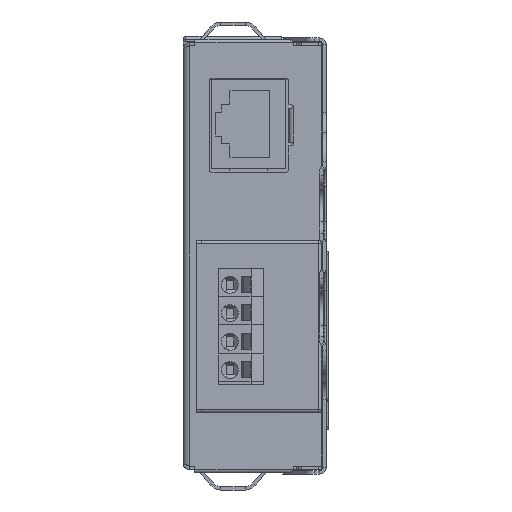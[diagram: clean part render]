
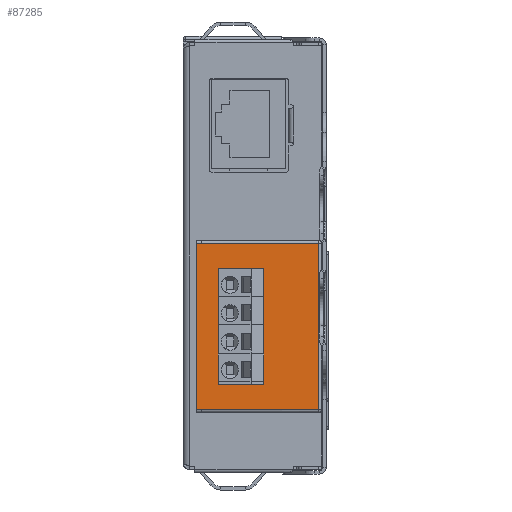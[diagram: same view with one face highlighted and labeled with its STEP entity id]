
A CAD part, left-side view. The second image highlights one B-rep face of the part: STEP entity #87285.
In plain terms, the highlighted planar face has unit normal (-1, 0, 0).
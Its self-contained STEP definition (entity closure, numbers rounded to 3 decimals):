
#142 = CARTESIAN_POINT ( 'NONE',  ( -55.7, 11., -2.25 ) ) ;
#586 = CARTESIAN_POINT ( 'NONE',  ( -55.7, 19., -22.55 ) ) ;
#687 = LINE ( 'NONE', #78383, #85054 ) ;
#1065 = VERTEX_POINT ( 'NONE', #48388 ) ;
#2085 = AXIS2_PLACEMENT_3D ( 'NONE', #64728, #48180, #96007 ) ;
#4170 = EDGE_CURVE ( 'NONE', #1065, #77850, #14020, .T. ) ;
#4720 = DIRECTION ( 'NONE',  ( 0., 0., 1. ) ) ;
#5814 = LINE ( 'NONE', #6319, #98690 ) ;
#5851 = DIRECTION ( 'NONE',  ( 0., 1., 0. ) ) ;
#6319 = CARTESIAN_POINT ( 'NONE',  ( -55.7, 22., 2.25 ) ) ;
#6822 = DIRECTION ( 'NONE',  ( 0., -1., 0. ) ) ;
#10456 = CARTESIAN_POINT ( 'NONE',  ( -55.7, 1.3, 2.25 ) ) ;
#11228 = ORIENTED_EDGE ( 'NONE', *, *, #72608, .T. ) ;
#12297 = EDGE_CURVE ( 'NONE', #1065, #79690, #90261, .T. ) ;
#12770 = ORIENTED_EDGE ( 'NONE', *, *, #12297, .F. ) ;
#13957 = VERTEX_POINT ( 'NONE', #142 ) ;
#14020 = LINE ( 'NONE', #37385, #80318 ) ;
#14146 = ORIENTED_EDGE ( 'NONE', *, *, #4170, .T. ) ;
#17823 = LINE ( 'NONE', #88065, #84505 ) ;
#19303 = VERTEX_POINT ( 'NONE', #75410 ) ;
#19555 = EDGE_CURVE ( 'NONE', #24454, #13957, #41889, .T. ) ;
#21626 = CARTESIAN_POINT ( 'NONE',  ( -55.7, 11., -22.55 ) ) ;
#22172 = ORIENTED_EDGE ( 'NONE', *, *, #36044, .F. ) ;
#22273 = CARTESIAN_POINT ( 'NONE',  ( -55.7, 19., -2.25 ) ) ;
#24454 = VERTEX_POINT ( 'NONE', #22273 ) ;
#25731 = EDGE_CURVE ( 'NONE', #79690, #41571, #74654, .T. ) ;
#27730 = LINE ( 'NONE', #10456, #33928 ) ;
#32669 = EDGE_CURVE ( 'NONE', #37614, #19303, #27730, .T. ) ;
#33239 = CARTESIAN_POINT ( 'NONE',  ( -55.7, 19., -2.25 ) ) ;
#33713 = EDGE_CURVE ( 'NONE', #13957, #82328, #17823, .T. ) ;
#33928 = VECTOR ( 'NONE', #64693, 1000. ) ;
#36044 = EDGE_CURVE ( 'NONE', #41571, #37614, #5814, .T. ) ;
#36751 = VECTOR ( 'NONE', #68508, 1000. ) ;
#37325 = VERTEX_POINT ( 'NONE', #586 ) ;
#37385 = CARTESIAN_POINT ( 'NONE',  ( -55.7, 22.9, -27.05 ) ) ;
#37614 = VERTEX_POINT ( 'NONE', #52691 ) ;
#41571 = VERTEX_POINT ( 'NONE', #65298 ) ;
#41889 = LINE ( 'NONE', #33239, #43499 ) ;
#43162 = DIRECTION ( 'NONE',  ( 0., 0., 1. ) ) ;
#43499 = VECTOR ( 'NONE', #79905, 1000. ) ;
#43951 = VECTOR ( 'NONE', #5851, 1000. ) ;
#46612 = EDGE_CURVE ( 'NONE', #77850, #19303, #687, .T. ) ;
#48180 = DIRECTION ( 'NONE',  ( -1., 0., 0. ) ) ;
#48388 = CARTESIAN_POINT ( 'NONE',  ( -55.7, 22.9, -27.05 ) ) ;
#48489 = ORIENTED_EDGE ( 'NONE', *, *, #25731, .F. ) ;
#50096 = FACE_OUTER_BOUND ( 'NONE', #54358, .T. ) ;
#50711 = CARTESIAN_POINT ( 'NONE',  ( -55.7, 19., -22.55 ) ) ;
#52691 = CARTESIAN_POINT ( 'NONE',  ( -55.7, 1.3, 2.25 ) ) ;
#54358 = EDGE_LOOP ( 'NONE', ( #22172, #48489, #12770, #14146, #80228, #71010 ) ) ;
#57680 = ORIENTED_EDGE ( 'NONE', *, *, #64174, .T. ) ;
#57681 = PLANE ( 'NONE',  #2085 ) ;
#64174 = EDGE_CURVE ( 'NONE', #37325, #24454, #91529, .T. ) ;
#64414 = EDGE_LOOP ( 'NONE', ( #11228, #57680, #92049, #66714 ) ) ;
#64693 = DIRECTION ( 'NONE',  ( 0., 0., -1. ) ) ;
#64728 = CARTESIAN_POINT ( 'NONE',  ( -55.7, 1.3, -26.9 ) ) ;
#65298 = CARTESIAN_POINT ( 'NONE',  ( -55.7, 22., 2.25 ) ) ;
#66714 = ORIENTED_EDGE ( 'NONE', *, *, #33713, .T. ) ;
#67784 = LINE ( 'NONE', #21626, #43951 ) ;
#68005 = CARTESIAN_POINT ( 'NONE',  ( -55.7, 22.9, 2.25 ) ) ;
#68508 = DIRECTION ( 'NONE',  ( 0., -1., 0. ) ) ;
#69010 = VECTOR ( 'NONE', #4720, 1000. ) ;
#71010 = ORIENTED_EDGE ( 'NONE', *, *, #32669, .F. ) ;
#72608 = EDGE_CURVE ( 'NONE', #82328, #37325, #67784, .T. ) ;
#72764 = CARTESIAN_POINT ( 'NONE',  ( -55.7, 22.9, -27.05 ) ) ;
#74654 = LINE ( 'NONE', #68005, #36751 ) ;
#75410 = CARTESIAN_POINT ( 'NONE',  ( -55.7, 1.3, -27.05 ) ) ;
#76416 = VECTOR ( 'NONE', #43162, 1000. ) ;
#77850 = VERTEX_POINT ( 'NONE', #91111 ) ;
#77977 = CARTESIAN_POINT ( 'NONE',  ( -55.7, 22.9, 2.25 ) ) ;
#78383 = CARTESIAN_POINT ( 'NONE',  ( -55.7, 22., -27.05 ) ) ;
#79077 = FACE_BOUND ( 'NONE', #64414, .T. ) ;
#79690 = VERTEX_POINT ( 'NONE', #77977 ) ;
#79905 = DIRECTION ( 'NONE',  ( 0., -1., 0. ) ) ;
#80228 = ORIENTED_EDGE ( 'NONE', *, *, #46612, .T. ) ;
#80318 = VECTOR ( 'NONE', #86606, 1000. ) ;
#82328 = VERTEX_POINT ( 'NONE', #83958 ) ;
#83958 = CARTESIAN_POINT ( 'NONE',  ( -55.7, 11., -22.55 ) ) ;
#84179 = DIRECTION ( 'NONE',  ( 0., -1., 0. ) ) ;
#84505 = VECTOR ( 'NONE', #96766, 1000. ) ;
#85054 = VECTOR ( 'NONE', #6822, 1000. ) ;
#86606 = DIRECTION ( 'NONE',  ( 0., -1., 0. ) ) ;
#87285 = ADVANCED_FACE ( 'NONE', ( #50096, #79077 ), #57681, .T. ) ;
#88065 = CARTESIAN_POINT ( 'NONE',  ( -55.7, 11., -2.25 ) ) ;
#90261 = LINE ( 'NONE', #72764, #69010 ) ;
#91111 = CARTESIAN_POINT ( 'NONE',  ( -55.7, 22., -27.05 ) ) ;
#91529 = LINE ( 'NONE', #50711, #76416 ) ;
#92049 = ORIENTED_EDGE ( 'NONE', *, *, #19555, .T. ) ;
#96007 = DIRECTION ( 'NONE',  ( 0., -1., 0. ) ) ;
#96766 = DIRECTION ( 'NONE',  ( 0., 0., -1. ) ) ;
#98690 = VECTOR ( 'NONE', #84179, 1000. ) ;
